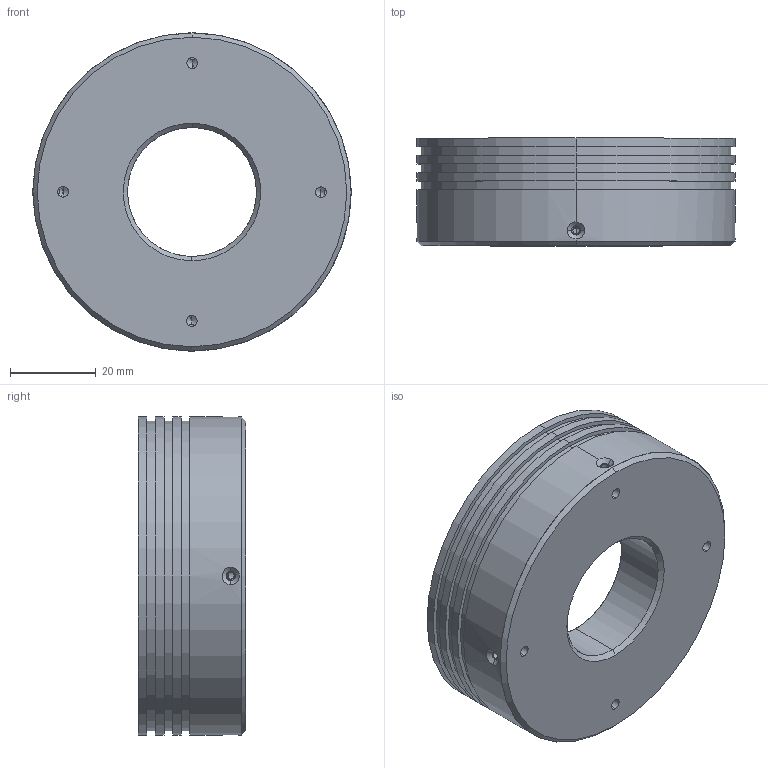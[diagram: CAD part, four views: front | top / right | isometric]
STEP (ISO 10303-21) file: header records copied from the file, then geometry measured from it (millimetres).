
FILE_DESCRIPTION (( 'STEP AP203' ), '1' );
FILE_NAME ('3D-LRD-RS7460.STEP', '2021-03-03T06:51:22', ( '' ), ( '' ), 'SwSTEP 2.0', 'SolidWorks 2018', '' );
FILE_SCHEMA (( 'CONFIG_CONTROL_DESIGN' ));
Length unit declared in the file: millimetre
Products named in the file (5): 3D-LRD-RS7460; LRD-RS7460-B; LRD-RS7460-鞦扞啣; RS7460萇繚啣; LRD-RS7460-A
Assembly tree (4 placements, depth 2):
  3D-LRD-RS7460
    LRD-RS7460-A
    RS7460萇繚啣
    LRD-RS7460-鞦扞啣
    LRD-RS7460-B
Bounding box: 74 x 25.02 x 74 mm (x, y, z)
Volume: 39257.2 mm3; surface area: 40347.1 mm2
Topology: 4 solids, 4 shells, 321 faces, 800 edges, 524 vertices
Faces by surface type: plane 234, cylinder 59, cone 20, bspline 8
Entity records: 13395 total; most frequent: CARTESIAN_POINT 5284, ORIENTED_EDGE 1584, DIRECTION 1454, EDGE_CURVE 792, VECTOR 602, LINE 602, VERTEX_POINT 524, AXIS2_PLACEMENT_3D 426
